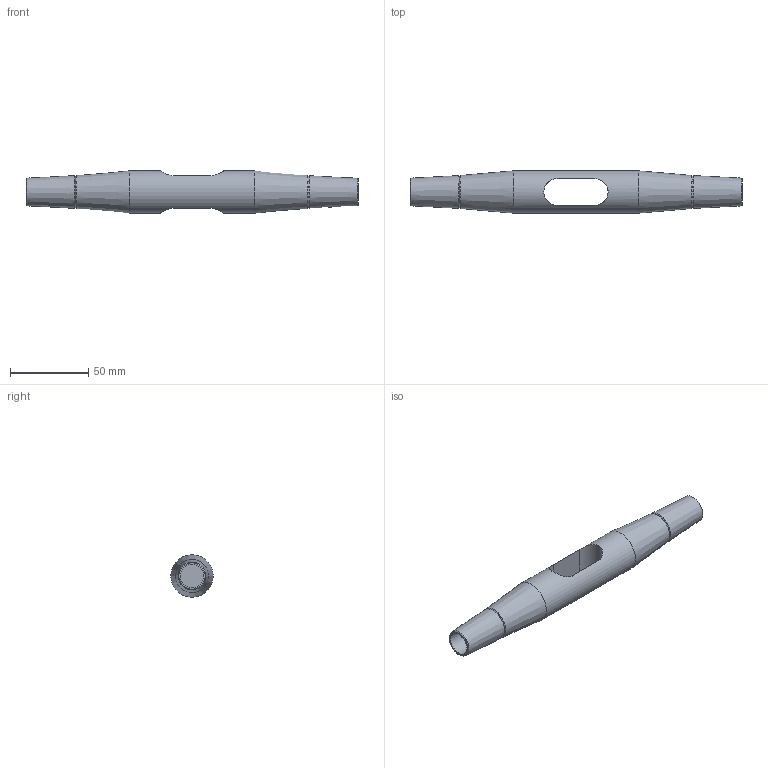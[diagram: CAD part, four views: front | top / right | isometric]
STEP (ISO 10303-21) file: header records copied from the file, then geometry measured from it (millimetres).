
FILE_DESCRIPTION(/* description */ (''),/* implementation_level */ '2;1');
FILE_NAME(/* name */ 'G:\Engineering\700 CAD\Internet-PX-1-step-igs-dxf\520-KMF-Arbeitsdateien\520-014-KMF.stp',/* time_stamp */ '2020-07-02T13:18:22+02:00',/* author */ ('schwarz'),/* organization */ (''),/* preprocessor_version */ 'ST-DEVELOPER v16.1',/* originating_system */ 'Autodesk Inventor 2016',/* authorisation */ '');
FILE_SCHEMA (('AUTOMOTIVE_DESIGN { 1 0 10303 214 3 1 1 }'));
Length unit declared in the file: centimetre
Products named in the file (1): Kreuzmuffen-Set 520 014 Kunde
Bounding box: 212 x 27 x 27 mm (x, y, z)
Volume: 71281.5 mm3; surface area: 19567.5 mm2
Topology: 1 solids, 1 shells, 21 faces, 43 edges, 26 vertices
Faces by surface type: cone 10, plane 6, cylinder 5
Full cylindrical faces by diameter (mm): 14.8 x2, 27 x1
Entity records: 589 total; most frequent: CARTESIAN_POINT 142, DIRECTION 84, ORIENTED_EDGE 56, EDGE_LOOP 38, AXIS2_PLACEMENT_3D 38, EDGE_CURVE 28, VERTEX_POINT 24, STYLED_ITEM 22
